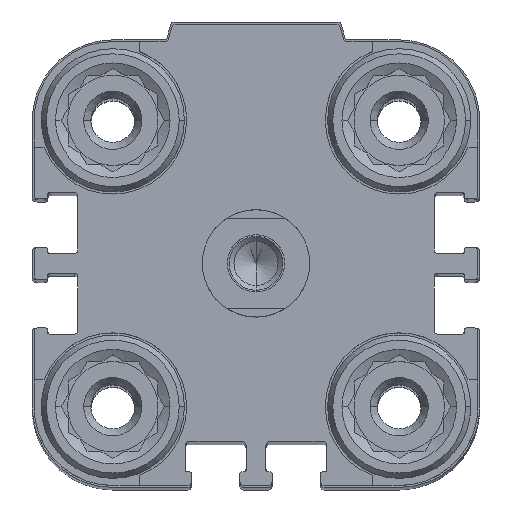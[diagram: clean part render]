
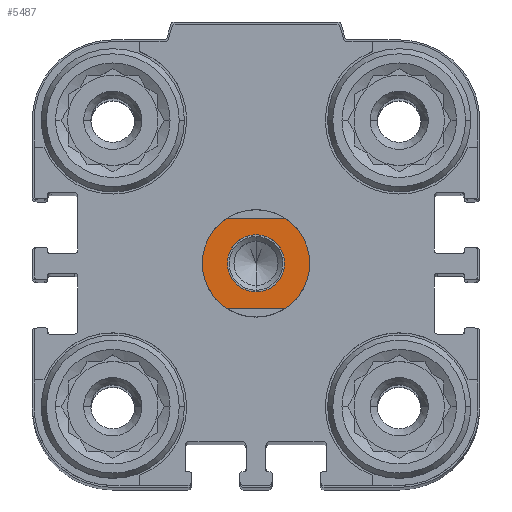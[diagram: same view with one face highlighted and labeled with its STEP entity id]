
A CAD part, top view. The second image highlights one B-rep face of the part: STEP entity #5487.
In plain terms, the highlighted planar face has unit normal (0, 0, 1).
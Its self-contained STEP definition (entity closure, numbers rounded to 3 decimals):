
#41 = DIRECTION ( 'NONE',  ( 0., 0., -1. ) ) ;
#348 = CARTESIAN_POINT ( 'NONE',  ( -6., 0., 6. ) ) ;
#784 = ORIENTED_EDGE ( 'NONE', *, *, #9183, .T. ) ;
#1380 = DIRECTION ( 'NONE',  ( -1., 0., 0. ) ) ;
#1615 = EDGE_CURVE ( 'NONE', #14682, #17704, #13029, .T. ) ;
#1857 = DIRECTION ( 'NONE',  ( 0., 1., 0. ) ) ;
#1978 = DIRECTION ( 'NONE',  ( 0., 0., -1. ) ) ;
#2441 = DIRECTION ( 'NONE',  ( 0., 0., -1. ) ) ;
#2497 = CARTESIAN_POINT ( 'NONE',  ( 6., 0., 6. ) ) ;
#2500 = VERTEX_POINT ( 'NONE', #3270 ) ;
#2519 = DIRECTION ( 'NONE',  ( -1., 0., 0. ) ) ;
#2797 = VECTOR ( 'NONE', #2519, 1000. ) ;
#3153 = CIRCLE ( 'NONE', #12250, 6. ) ;
#3210 = ORIENTED_EDGE ( 'NONE', *, *, #19708, .F. ) ;
#3270 = CARTESIAN_POINT ( 'NONE',  ( 3.317, -5., 6. ) ) ;
#3360 = CIRCLE ( 'NONE', #5187, 6. ) ;
#3540 = VERTEX_POINT ( 'NONE', #2497 ) ;
#3581 = FACE_BOUND ( 'NONE', #11425, .T. ) ;
#3996 = CARTESIAN_POINT ( 'NONE',  ( 10., -5., 6. ) ) ;
#4308 = VERTEX_POINT ( 'NONE', #14320 ) ;
#4327 = ORIENTED_EDGE ( 'NONE', *, *, #15599, .F. ) ;
#4415 = DIRECTION ( 'NONE',  ( 0., 0., -1. ) ) ;
#4866 = ORIENTED_EDGE ( 'NONE', *, *, #10931, .F. ) ;
#5076 = CARTESIAN_POINT ( 'NONE',  ( 0., 0., 6. ) ) ;
#5187 = AXIS2_PLACEMENT_3D ( 'NONE', #18774, #17058, #1380 ) ;
#5487 = ADVANCED_FACE ( 'NONE', ( #19261, #3581 ), #17534, .F. ) ;
#5960 = VERTEX_POINT ( 'NONE', #20028 ) ;
#6219 = CARTESIAN_POINT ( 'NONE',  ( -10., 5., 6. ) ) ;
#7076 = CIRCLE ( 'NONE', #7089, 3.2 ) ;
#7089 = AXIS2_PLACEMENT_3D ( 'NONE', #7974, #4415, #18270 ) ;
#7353 = CARTESIAN_POINT ( 'NONE',  ( 0., 0., 6. ) ) ;
#7974 = CARTESIAN_POINT ( 'NONE',  ( 0., 0., 6. ) ) ;
#8228 = CIRCLE ( 'NONE', #12608, 3.2 ) ;
#8598 = AXIS2_PLACEMENT_3D ( 'NONE', #5076, #41, #12150 ) ;
#9183 = EDGE_CURVE ( 'NONE', #21395, #4308, #8228, .T. ) ;
#9642 = CARTESIAN_POINT ( 'NONE',  ( 0., 0., 6. ) ) ;
#9774 = DIRECTION ( 'NONE',  ( 1., 0., 0. ) ) ;
#9875 = DIRECTION ( 'NONE',  ( 0., 0., -1. ) ) ;
#10044 = CARTESIAN_POINT ( 'NONE',  ( -3.317, 5., 6. ) ) ;
#10264 = EDGE_CURVE ( 'NONE', #5960, #3540, #3153, .T. ) ;
#10286 = VECTOR ( 'NONE', #9774, 1000. ) ;
#10401 = ORIENTED_EDGE ( 'NONE', *, *, #10264, .F. ) ;
#10788 = ORIENTED_EDGE ( 'NONE', *, *, #1615, .F. ) ;
#10931 = EDGE_CURVE ( 'NONE', #2500, #16288, #12692, .T. ) ;
#11110 = DIRECTION ( 'NONE',  ( 0., 0., -1. ) ) ;
#11425 = EDGE_LOOP ( 'NONE', ( #784, #12587 ) ) ;
#12150 = DIRECTION ( 'NONE',  ( -1., 0., 0. ) ) ;
#12250 = AXIS2_PLACEMENT_3D ( 'NONE', #20617, #9875, #15475 ) ;
#12587 = ORIENTED_EDGE ( 'NONE', *, *, #15236, .T. ) ;
#12608 = AXIS2_PLACEMENT_3D ( 'NONE', #18097, #11110, #18212 ) ;
#12692 = LINE ( 'NONE', #3996, #2797 ) ;
#12842 = DIRECTION ( 'NONE',  ( -1., 0., 0. ) ) ;
#13029 = CIRCLE ( 'NONE', #16672, 6. ) ;
#13117 = EDGE_CURVE ( 'NONE', #16288, #14682, #17021, .T. ) ;
#13700 = EDGE_LOOP ( 'NONE', ( #4327, #10788, #21224, #4866, #3210, #10401 ) ) ;
#14217 = AXIS2_PLACEMENT_3D ( 'NONE', #7353, #1978, #1857 ) ;
#14320 = CARTESIAN_POINT ( 'NONE',  ( 0., -3.2, 6. ) ) ;
#14682 = VERTEX_POINT ( 'NONE', #348 ) ;
#15236 = EDGE_CURVE ( 'NONE', #4308, #21395, #7076, .T. ) ;
#15475 = DIRECTION ( 'NONE',  ( -1., 0., 0. ) ) ;
#15599 = EDGE_CURVE ( 'NONE', #17704, #5960, #21890, .T. ) ;
#16288 = VERTEX_POINT ( 'NONE', #18173 ) ;
#16672 = AXIS2_PLACEMENT_3D ( 'NONE', #9642, #2441, #12842 ) ;
#17021 = CIRCLE ( 'NONE', #8598, 6. ) ;
#17058 = DIRECTION ( 'NONE',  ( 0., 0., -1. ) ) ;
#17534 = PLANE ( 'NONE',  #14217 ) ;
#17704 = VERTEX_POINT ( 'NONE', #10044 ) ;
#18097 = CARTESIAN_POINT ( 'NONE',  ( 0., 0., 6. ) ) ;
#18173 = CARTESIAN_POINT ( 'NONE',  ( -3.317, -5., 6. ) ) ;
#18212 = DIRECTION ( 'NONE',  ( 0., 1., 0. ) ) ;
#18270 = DIRECTION ( 'NONE',  ( 0., 1., 0. ) ) ;
#18774 = CARTESIAN_POINT ( 'NONE',  ( 0., 0., 6. ) ) ;
#19261 = FACE_OUTER_BOUND ( 'NONE', #13700, .T. ) ;
#19708 = EDGE_CURVE ( 'NONE', #3540, #2500, #3360, .T. ) ;
#20028 = CARTESIAN_POINT ( 'NONE',  ( 3.317, 5., 6. ) ) ;
#20617 = CARTESIAN_POINT ( 'NONE',  ( 0., 0., 6. ) ) ;
#21224 = ORIENTED_EDGE ( 'NONE', *, *, #13117, .F. ) ;
#21395 = VERTEX_POINT ( 'NONE', #22419 ) ;
#21890 = LINE ( 'NONE', #6219, #10286 ) ;
#22419 = CARTESIAN_POINT ( 'NONE',  ( 0., 3.2, 6. ) ) ;
